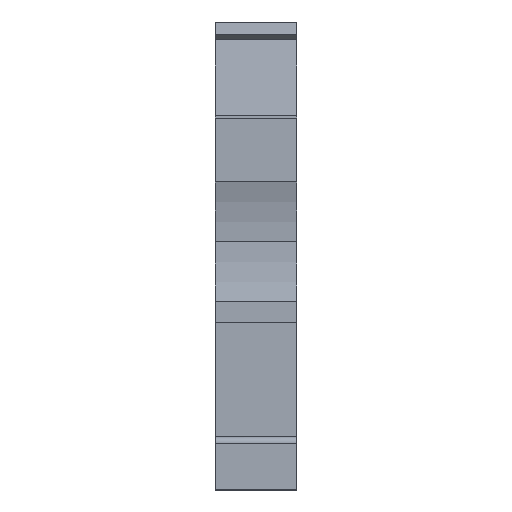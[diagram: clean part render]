
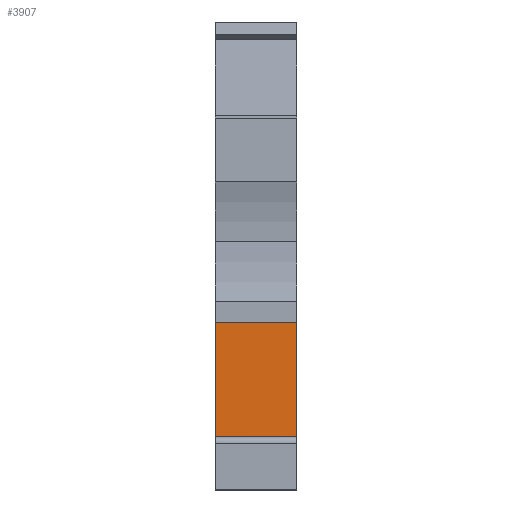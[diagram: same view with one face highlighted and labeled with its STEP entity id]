
A CAD part, front view. The second image highlights one B-rep face of the part: STEP entity #3907.
In plain terms, the highlighted planar face has unit normal (0, -1, 0).
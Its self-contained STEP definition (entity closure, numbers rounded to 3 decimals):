
#50=CARTESIAN_POINT('',(0.,3.,4.));
#51=VERTEX_POINT('',#50);
#58=CARTESIAN_POINT('',(0.,3.,12.6));
#59=VERTEX_POINT('',#58);
#60=CARTESIAN_POINT('',(0.,3.,4.));
#61=DIRECTION('',(0.,0.,1.));
#62=VECTOR('',#61,8.6);
#63=LINE('',#60,#62);
#64=EDGE_CURVE('',#51,#59,#63,.T.);
#1447=CARTESIAN_POINT('',(6.15,3.,12.6));
#1448=VERTEX_POINT('',#1447);
#1455=CARTESIAN_POINT('',(6.15,3.,1.5));
#1456=VERTEX_POINT('',#1455);
#1457=CARTESIAN_POINT('',(6.15,3.,1.5));
#1458=DIRECTION('',(0.,0.,1.));
#1459=VECTOR('',#1458,11.1);
#1460=LINE('',#1457,#1459);
#1461=EDGE_CURVE('',#1456,#1448,#1460,.T.);
#1485=CARTESIAN_POINT('',(1.1,3.,4.));
#1486=VERTEX_POINT('',#1485);
#1495=CARTESIAN_POINT('',(1.1,3.,4.));
#1496=DIRECTION('',(-1.,0.,0.));
#1497=VECTOR('',#1496,1.1);
#1498=LINE('',#1495,#1497);
#1499=EDGE_CURVE('',#1486,#51,#1498,.T.);
#3718=CARTESIAN_POINT('',(6.15,3.,12.6));
#3719=DIRECTION('',(-1.,0.,0.));
#3720=VECTOR('',#3719,6.15);
#3721=LINE('',#3718,#3720);
#3722=EDGE_CURVE('',#1448,#59,#3721,.T.);
#3768=CARTESIAN_POINT('',(1.1,3.,1.5));
#3769=VERTEX_POINT('',#3768);
#3776=CARTESIAN_POINT('',(1.1,3.,1.5));
#3777=DIRECTION('',(-0.,-0.,1.));
#3778=VECTOR('',#3777,2.5);
#3779=LINE('',#3776,#3778);
#3780=EDGE_CURVE('',#3769,#1486,#3779,.T.);
#3865=CARTESIAN_POINT('',(1.1,3.,1.5));
#3866=DIRECTION('',(1.,-0.,-0.));
#3867=VECTOR('',#3866,5.05);
#3868=LINE('',#3865,#3867);
#3869=EDGE_CURVE('',#3769,#1456,#3868,.T.);
#3894=CARTESIAN_POINT('',(6.15,3.,5.));
#3895=DIRECTION('',(0.,1.,0.));
#3896=DIRECTION('',(0.,0.,-1.));
#3897=AXIS2_PLACEMENT_3D('',#3894,#3895,#3896);
#3898=PLANE('',#3897);
#3899=ORIENTED_EDGE('',*,*,#1461,.T.);
#3900=ORIENTED_EDGE('',*,*,#3722,.T.);
#3901=ORIENTED_EDGE('',*,*,#64,.F.);
#3902=ORIENTED_EDGE('',*,*,#1499,.F.);
#3903=ORIENTED_EDGE('',*,*,#3780,.F.);
#3904=ORIENTED_EDGE('',*,*,#3869,.T.);
#3905=EDGE_LOOP('',(#3899,#3900,#3901,#3902,#3903,#3904));
#3906=FACE_BOUND('',#3905,.T.);
#3907=ADVANCED_FACE('',(#3906),#3898,.F.);
